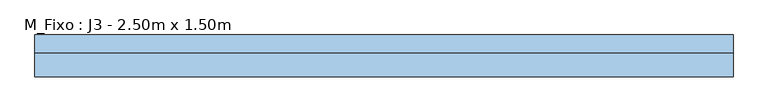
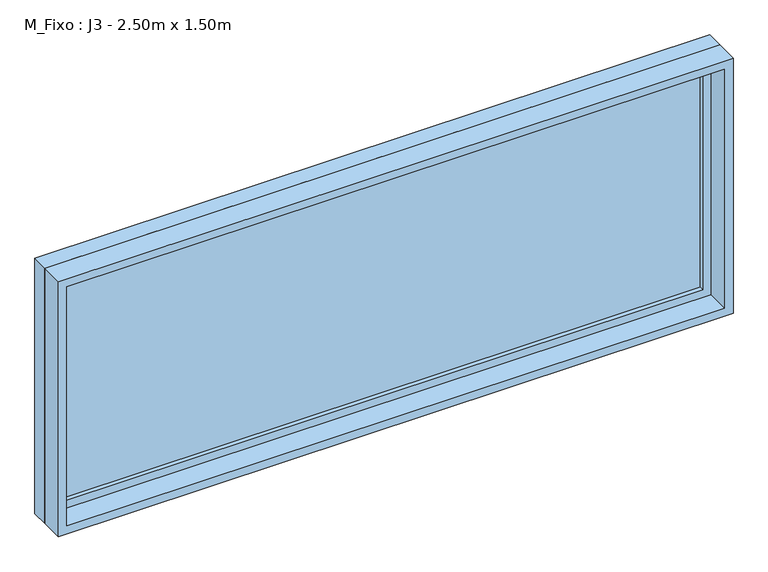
"""IFC4 building model written with IfcOpenShell, lengths in millimetres: window geometry, M_Fixo : J3 - 2.50m x 1.50m."""

from ifc_helpers import new_model, si_unit, frame, origin, place, context, project, spatial, polyline, outline, extrude, source, transform, mapped, element, save


def m_fixo_j3_2_50m_x_1_50m_181a9515(model_context):
    return source(origin(), model_context, "Body", "SweptSolid", [
        extrude(outline(polyline([(-1187.0, 53.0), (1187.0, 53.0), (1187.0, 41.0), (-1187.0, 41.0), (-1187.0, 53.0)])), frame((0.0, 0.0, 978.0), z_axis=(0.0, 0.0, 1.0), x_axis=(1.0, 0.0, 0.0)), (0.0, 0.0, 1.0), 874.0),
        extrude(outline(polyline([(1896.0, -1231.0), (934.0, -1231.0), (934.0, 1231.0), (1896.0, 1231.0), (1896.0, -1231.0)]), holes=[polyline([(1852.0, -1187.0), (1852.0, 1187.0), (978.0, 1187.0), (978.0, -1187.0), (1852.0, -1187.0)])]), frame((0.0, 25.0, 0.0), z_axis=(0.0, 1.0, 0.0), x_axis=(0.0, 0.0, 1.0)), (0.0, 0.0, 1.0), 44.0),
        extrude(outline(polyline([(1915.0, -1250.0), (915.0, -1250.0), (915.0, 1250.0), (1915.0, 1250.0), (1915.0, -1250.0)]), holes=[polyline([(1896.0, -1231.0), (1896.0, 1231.0), (934.0, 1231.0), (934.0, -1231.0), (1896.0, -1231.0)])]), frame((0.0, 25.0, 0.0), z_axis=(0.0, 1.0, 0.0), x_axis=(0.0, 0.0, 1.0)), (0.0, 0.0, 1.0), 63.0),
        extrude(outline(polyline([(1915.0, -1250.0), (915.0, -1250.0), (915.0, 1250.0), (1915.0, 1250.0), (1915.0, -1250.0)]), holes=[polyline([(1883.0, -1218.0), (1883.0, 1218.0), (947.0, 1218.0), (947.0, -1218.0), (1883.0, -1218.0)])]), frame((0.0, -62.0, 0.0), z_axis=(0.0, 1.0, 0.0), x_axis=(0.0, 0.0, 1.0)), (0.0, 0.0, 1.0), 87.0),
    ])


if __name__ == "__main__":
    model = new_model("IFC4")
    model_context = context("Model", 3, world=origin())
    ifc_project = project(units=[si_unit("LENGTHUNIT", "METRE", prefix="MILLI")], contexts=[model_context])
    site = spatial("IfcSite", under=ifc_project)
    building = spatial("IfcBuilding", under=site)
    placement = place(None, origin())
    m_fixo_j3_2_50m_x_1_50m_shape = m_fixo_j3_2_50m_x_1_50m_181a9515(model_context)
    element("IfcWindow", 1, ObjectType="M_Fixo : J3 - 2.50m x 1.50m", at=placement, inside=building, context=model_context, shape_type="MappedRepresentation", body=[
        mapped(m_fixo_j3_2_50m_x_1_50m_shape, transform((0.0, 0.0, 0.0), x_axis=(1.0, 0.0, 0.0), y_axis=(0.0, 1.0, 0.0), z_axis=(0.0, 0.0, 1.0))),
    ])
    save(model, "model.ifc")
